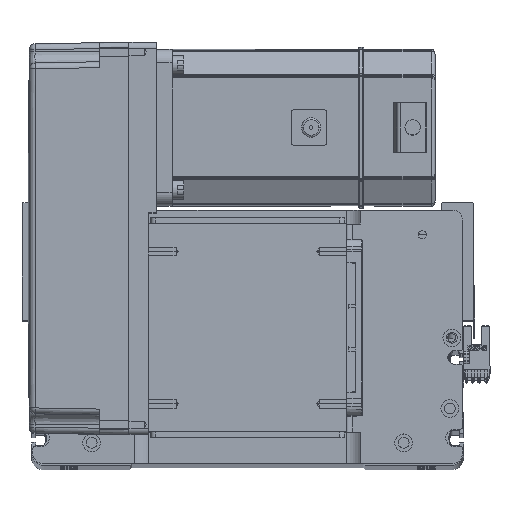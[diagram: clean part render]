
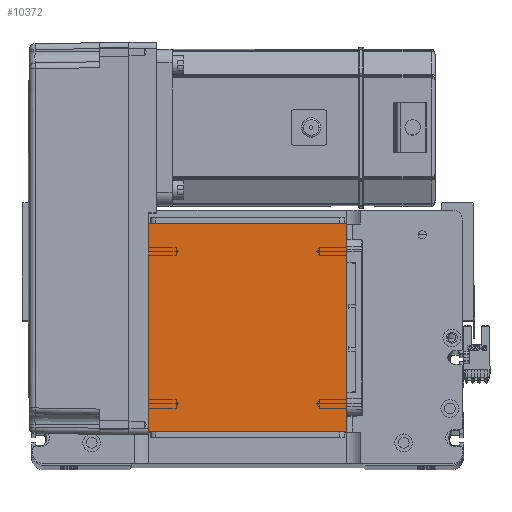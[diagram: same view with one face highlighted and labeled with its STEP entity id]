
A CAD part, top view. The second image highlights one B-rep face of the part: STEP entity #10372.
In plain terms, the highlighted planar face has unit normal (0, 0, 1).
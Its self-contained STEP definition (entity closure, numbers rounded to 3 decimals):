
#2472 = VERTEX_POINT ( 'NONE', #41605 ) ;
#3771 = CARTESIAN_POINT ( 'NONE',  ( -50.5, 122., 115. ) ) ;
#5362 = DIRECTION ( 'NONE',  ( 1., 0., 0. ) ) ;
#6904 = CARTESIAN_POINT ( 'NONE',  ( 0., 0., 115. ) ) ;
#7446 = DIRECTION ( 'NONE',  ( 1., 0., 0. ) ) ;
#7707 = EDGE_CURVE ( 'NONE', #45022, #18755, #26568, .T. ) ;
#10372 = ADVANCED_FACE ( 'NONE', ( #32151 ), #15235, .T. ) ;
#10985 = DIRECTION ( 'NONE',  ( 0., 0., 1. ) ) ;
#12054 = VERTEX_POINT ( 'NONE', #29796 ) ;
#13105 = LINE ( 'NONE', #42625, #32239 ) ;
#13782 = ORIENTED_EDGE ( 'NONE', *, *, #7707, .T. ) ;
#14610 = AXIS2_PLACEMENT_3D ( 'NONE', #6904, #10985, #7446 ) ;
#15235 = PLANE ( 'NONE',  #14610 ) ;
#15356 = LINE ( 'NONE', #3771, #34527 ) ;
#18755 = VERTEX_POINT ( 'NONE', #47636 ) ;
#19472 = ORIENTED_EDGE ( 'NONE', *, *, #26858, .T. ) ;
#20281 = EDGE_CURVE ( 'NONE', #18755, #12054, #15356, .T. ) ;
#20981 = LINE ( 'NONE', #25212, #47179 ) ;
#25212 = CARTESIAN_POINT ( 'NONE',  ( -50.5, 122., 115. ) ) ;
#26568 = LINE ( 'NONE', #36201, #46366 ) ;
#26858 = EDGE_CURVE ( 'NONE', #12054, #2472, #20981, .T. ) ;
#29796 = CARTESIAN_POINT ( 'NONE',  ( -50.5, 122., 115. ) ) ;
#31938 = DIRECTION ( 'NONE',  ( -1., 0., 0. ) ) ;
#32151 = FACE_OUTER_BOUND ( 'NONE', #39973, .T. ) ;
#32239 = VECTOR ( 'NONE', #5362, 1000. ) ;
#34527 = VECTOR ( 'NONE', #31938, 1000. ) ;
#36201 = CARTESIAN_POINT ( 'NONE',  ( 50.5, 122., 115. ) ) ;
#37189 = ORIENTED_EDGE ( 'NONE', *, *, #20281, .T. ) ;
#37393 = DIRECTION ( 'NONE',  ( 0., -1., 0. ) ) ;
#37600 = ORIENTED_EDGE ( 'NONE', *, *, #40261, .T. ) ;
#39973 = EDGE_LOOP ( 'NONE', ( #19472, #37600, #13782, #37189 ) ) ;
#40261 = EDGE_CURVE ( 'NONE', #2472, #45022, #13105, .T. ) ;
#40449 = DIRECTION ( 'NONE',  ( 0., 1., 0. ) ) ;
#41605 = CARTESIAN_POINT ( 'NONE',  ( -50.5, 16., 115. ) ) ;
#42625 = CARTESIAN_POINT ( 'NONE',  ( -50.5, 16., 115. ) ) ;
#45022 = VERTEX_POINT ( 'NONE', #46552 ) ;
#46366 = VECTOR ( 'NONE', #40449, 1000. ) ;
#46552 = CARTESIAN_POINT ( 'NONE',  ( 50.5, 16., 115. ) ) ;
#47179 = VECTOR ( 'NONE', #37393, 1000. ) ;
#47636 = CARTESIAN_POINT ( 'NONE',  ( 50.5, 122., 115. ) ) ;
